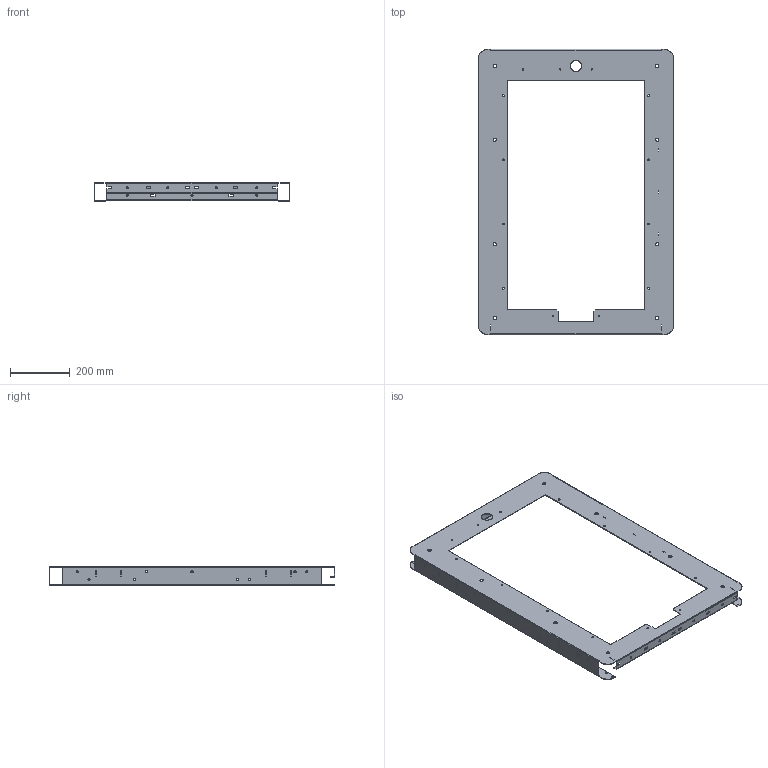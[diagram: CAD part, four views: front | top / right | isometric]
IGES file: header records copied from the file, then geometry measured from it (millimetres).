
Start section: SolidWorks IGES file using analytic representation for surfaces
Global section: file name: C:\PDF\Ìîäåëè äëÿ ïîñòðîåíèÿ ÷åðòåæåé (äëÿ ïðåòåíäåíòà)\ÊÍ.803-5-21.0.0.1.IGS; native system: SolidWorks 2016; preprocessor: SolidWorks 2016; author: Diman; date: 210306.192620; units: millimetre
Bounding box: 656 x 956 x 63 mm (x, y, z)
Surface area: 1024261.3 mm2 (no closed solid volume)
Topology: 0 solids, 0 shells, 352 faces, 5420 edges, 5420 vertices
Faces by surface type: bspline 204, revolution 148
